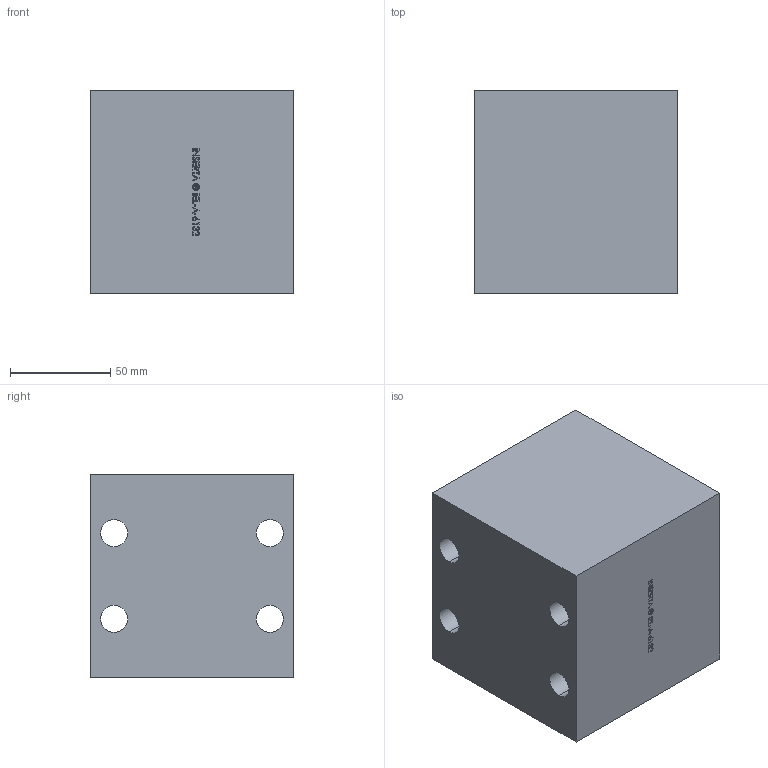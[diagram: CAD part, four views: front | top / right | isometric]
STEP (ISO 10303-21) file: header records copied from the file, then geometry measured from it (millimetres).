
FILE_DESCRIPTION (( 'STEP AP214' ), '1' );
FILE_NAME ('IEL-A-6132-N.STEP', '2020-12-07T13:58:56', ( '' ), ( '' ), 'SwSTEP 2.0', 'SolidWorks 2017', '' );
FILE_SCHEMA (( 'AUTOMOTIVE_DESIGN' ));
Length unit declared in the file: inch
Products named in the file (1): IEL-A-6132-N
Bounding box: 101.47 x 101.6 x 101.47 mm (x, y, z)
Volume: 777303.2 mm3; surface area: 97436.6 mm2
Topology: 2 solids, 2 shells, 371 faces, 1031 edges, 686 vertices
Faces by surface type: plane 178, cylinder 104, bspline 79, torus 6, sphere 4
Entity records: 29375 total; most frequent: CARTESIAN_POINT 16089, ORIENTED_EDGE 2050, DIRECTION 1316, EDGE_CURVE 1025, VERTEX_POINT 682, LINE 586, VECTOR 586, EDGE_LOOP 413
